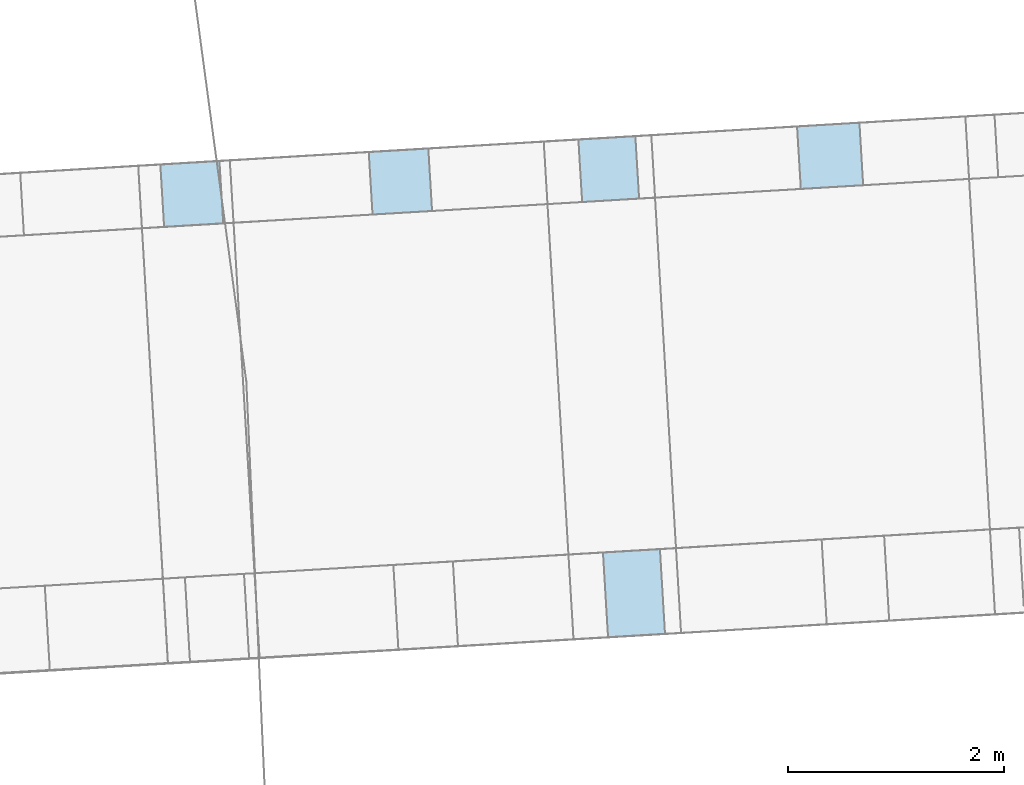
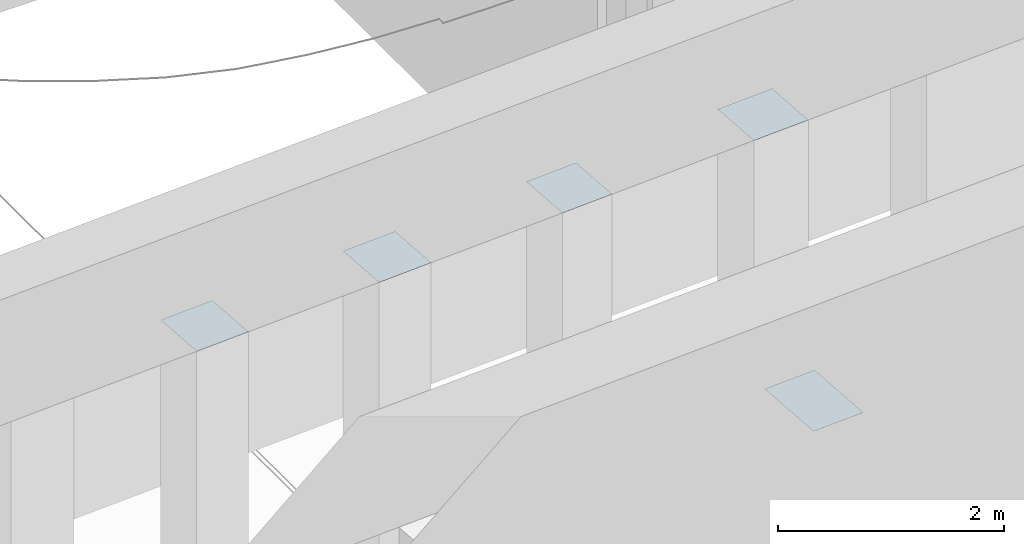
# Not in any storey, part 93 of 477: 5 roofs.
"""IFC4 building model written with IfcOpenShell, lengths in metres."""

from ifc_helpers import new_model, si_unit, frame, origin_with_axes, place, context, subcontext, project, spatial, polygons, element, save


model = new_model("IFC4")

# Units and contexts
model_context = context("Model", 3, precision=1e-05, world=origin_with_axes())
body_context = subcontext(model_context, "Body", "Model", "MODEL_VIEW")
ifc_project = project(units=[si_unit("AREAUNIT", "SQUARE_METRE"), si_unit("LENGTHUNIT", "METRE")], contexts=[model_context])

# Sites, building
site_1_placement = place(None, origin_with_axes())
site_1 = spatial("IfcSite", under=ifc_project, at=site_1_placement, Name="Topoexport Site")
site_2_placement = place(site_1_placement, origin_with_axes())
site_2 = spatial("IfcSite", under=site_1, at=site_2_placement, Name="TPX_BUILDINGS")
building_placement = place(site_2_placement, frame((211.8297320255, 101.9383160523, 526.7541), z_axis=(0.0, 0.0, 1.0), x_axis=(1.0, 0.0, 0.0)))
building = spatial("IfcBuilding", under=site_2, at=building_placement, Name="Building 18", CompositionType="ELEMENT")

# Roofs
roof_1_placement = place(None, frame((211.8297320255, 101.9383160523, 526.7541), z_axis=(0.0, 0.0, 1.0), x_axis=(1.0, 0.0, 0.0)))
element("IfcRoof", 1, at=roof_1_placement, inside=building, Name="Roof 26", context=body_context, shape_type="Tessellation", body=[
    polygons([(352.7970000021, 306.0918000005, 29.1525), (353.3450000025, 306.1240000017, 29.1525), (352.8320000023, 305.5126999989, 29.1525), (353.3800000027, 305.5458999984, 29.1525)], [[[3, 2, 1]], [[4, 2, 3]]]),
])
roof_2_placement = place(None, frame((211.8297320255, 101.9383160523, 526.7541), z_axis=(0.0, 0.0, 1.0), x_axis=(1.0, 0.0, 0.0)))
element("IfcRoof", 2, at=roof_2_placement, inside=building, Name="Roof 34", context=body_context, shape_type="Tessellation", body=[
    polygons([(359.2770000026, 306.4785000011, 29.1525), (359.3120000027, 305.8984000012, 29.1525), (358.7340000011, 305.8641999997, 29.1525), (358.699000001, 306.4433000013, 29.1525)], [[[3, 2, 1]], [[1, 4, 3]]]),
])
roof_3_placement = place(None, frame((211.8297320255, 101.9383160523, 526.7541), z_axis=(0.0, 0.0, 1.0), x_axis=(1.0, 0.0, 0.0)))
element("IfcRoof", 3, at=roof_3_placement, inside=building, Name="Roof 37", context=body_context, shape_type="Tessellation", body=[
    polygons([(357.2349999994, 305.7754000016, 29.1525), (356.6720000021, 306.3222000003, 29.1525), (357.200000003, 306.3544999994, 29.1525), (356.7070000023, 305.7430999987, 29.1525)], [[[3, 2, 1]], [[2, 4, 1]]]),
])
roof_4_placement = place(None, frame((211.8297320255, 101.9383160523, 526.7541), z_axis=(0.0, 0.0, 1.0), x_axis=(1.0, 0.0, 0.0)))
element("IfcRoof", 4, at=roof_4_placement, inside=building, Name="Roof 38", context=body_context, shape_type="Tessellation", body=[
    polygons([(354.7290000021, 306.2060000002, 29.1525), (355.2809999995, 306.2391999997, 29.1525), (354.7640000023, 305.6268999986, 29.1525), (355.3159999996, 305.6601000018, 29.1525)], [[[3, 2, 1]], [[4, 2, 3]]]),
])
roof_5_placement = place(None, frame((211.8297320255, 101.9383160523, 526.7541), z_axis=(0.0, 0.0, 1.0), x_axis=(1.0, 0.0, 0.0)))
element("IfcRoof", 5, at=roof_5_placement, inside=building, Name="Roof 47", context=body_context, shape_type="Tessellation", body=[
    polygons([(357.4279999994, 302.5263999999, 29.1524), (357.4750000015, 301.7402000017, 29.1524), (356.9470000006, 301.7089999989, 29.1524), (356.9000000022, 302.4941000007, 29.1524)], [[[3, 2, 1]], [[1, 4, 3]]]),
])

save(model, "model.ifc")
